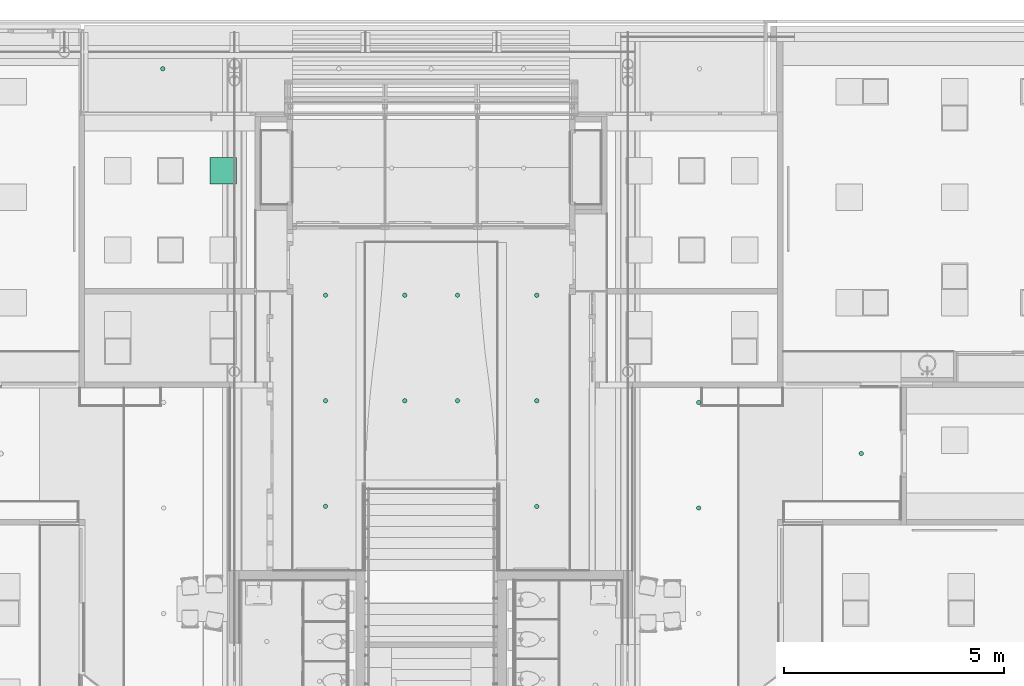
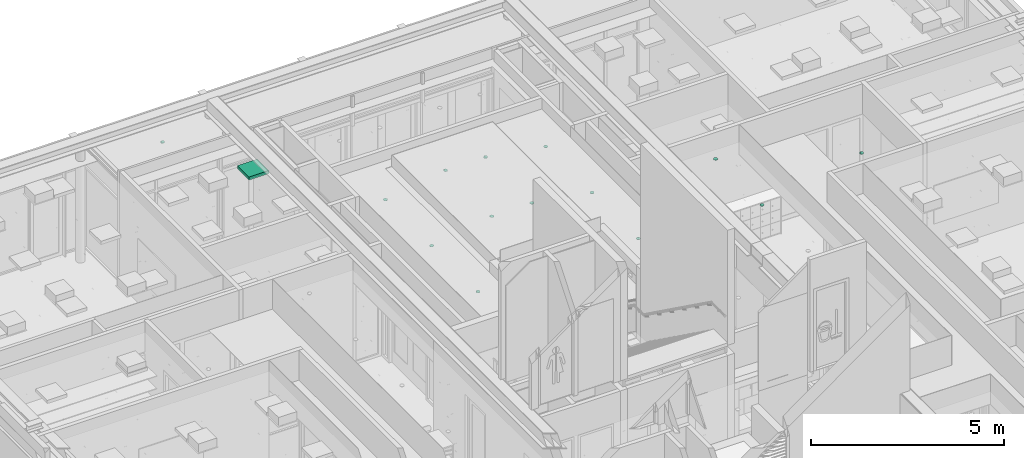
# One storey, part 285 of 347: 15 flow terminals.
"""IFC2X3 building model written with IfcOpenShell, lengths in millimetres."""

from ifc_helpers import new_model, entity, si_unit, converted_unit, derived_unit, money_unit, direction, frame, origin_with_axes, place, context, subcontext, project, spatial, open_shell, faceted_brep, surface_model, source, transform, mapped, type_object, type_shapes, element, save


model = new_model("IFC2X3")

# Units and contexts
model_context = context("Model", 3, precision=0.01, world=origin_with_axes(), true_north=direction((0.0, 1.0)))
plan_context = context("Plan", 3, precision=0.01, world=origin_with_axes(), true_north=direction((0.0, 1.0)))
body_context = subcontext(model_context, "Body", "Model", "MODEL_VIEW")
ifc_project = project(units=[si_unit("LENGTHUNIT", "METRE", prefix="MILLI"), si_unit("AREAUNIT", "SQUARE_METRE"), si_unit("VOLUMEUNIT", "CUBIC_METRE"), converted_unit("PLANEANGLEUNIT", "DEGREE", entity("IfcPlaneAngleMeasure", 0.0174532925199), si_unit("PLANEANGLEUNIT", "RADIAN"), dimensions=[0, 0, 0, 0, 0, 0, 0]), money_unit("EUR"), converted_unit("TIMEUNIT", "Year", entity("IfcTimeMeasure", 31556926.0), si_unit("TIMEUNIT", "SECOND"), dimensions=[0, 0, 1, 0, 0, 0, 0]), si_unit("MASSUNIT", "GRAM", prefix="KILO"), si_unit("THERMODYNAMICTEMPERATUREUNIT", "DEGREE_CELSIUS"), si_unit("LUMINOUSINTENSITYUNIT", "LUMEN"), si_unit("ENERGYUNIT", "JOULE", prefix="MEGA"), derived_unit("THERMALCONDUCTANCEUNIT", [(si_unit("POWERUNIT", "WATT"), 1), (si_unit("LENGTHUNIT", "METRE"), -1), (si_unit("THERMODYNAMICTEMPERATUREUNIT", "KELVIN"), -1)]), derived_unit("SPECIFICHEATCAPACITYUNIT", [(si_unit("ENERGYUNIT", "JOULE"), 1), (si_unit("MASSUNIT", "GRAM", prefix="KILO"), -1), (si_unit("THERMODYNAMICTEMPERATUREUNIT", "KELVIN"), -1)]), derived_unit("MASSDENSITYUNIT", [(si_unit("MASSUNIT", "GRAM", prefix="KILO"), 1), (si_unit("VOLUMEUNIT", "CUBIC_METRE"), -1)])], contexts=[model_context, plan_context])

# Site, building, storey
site_placement = place(None, origin_with_axes())
site = spatial("IfcSite", under=ifc_project, at=site_placement, Name="Site", CompositionType="ELEMENT")
building_placement = place(site_placement, origin_with_axes())
building = spatial("IfcBuilding", under=site, at=building_placement, Name="Naam gebouw", CompositionType="ELEMENT")
storey_placement = place(building_placement, origin_with_axes())
storey = spatial("IfcBuildingStorey", under=building, at=storey_placement, Name="begane grond", CompositionType="ELEMENT", Elevation=0.0)

# Flow terminals
lamp_type_1 = type_object("IfcLampType", Name="Spot plafond 01 25", PredefinedType="NOTDEFINED")
shared_shape_1 = source(origin_with_axes(), body_context, "Body", "SurfaceModel", [
    faceted_brep([(50.0, 0.0, -10.0), (46.1939766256, 19.1341716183, -10.0), (46.1939766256, 19.1341716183, 0.0), (50.0, 0.0, 0.0), (46.1939766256, -19.1341716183, -10.0), (35.3553390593, -35.3553390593, -10.0), (19.1341716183, -46.1939766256, -10.0), (0.0, -50.0, -10.0), (-19.1341716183, -46.1939766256, -10.0), (-35.3553390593, -35.3553390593, -10.0), (-46.1939766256, -19.1341716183, -10.0), (-50.0, 0.0, -10.0), (-46.1939766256, 19.1341716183, -10.0), (-35.3553390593, 35.3553390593, -10.0), (-19.1341716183, 46.1939766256, -10.0), (0.0, 50.0, -10.0), (19.1341716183, 46.1939766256, -10.0), (35.3553390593, 35.3553390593, -10.0), (40.0, 0.0, -10.0), (36.9551813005, 15.3073372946, -10.0), (28.2842712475, 28.2842712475, -10.0), (15.3073372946, 36.9551813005, -10.0), (0.0, 40.0, -10.0), (-15.3073372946, 36.9551813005, -10.0), (-28.2842712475, 28.2842712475, -10.0), (-36.9551813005, 15.3073372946, -10.0), (-40.0, 0.0, -10.0), (-36.9551813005, -15.3073372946, -10.0), (-28.2842712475, -28.2842712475, -10.0), (-15.3073372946, -36.9551813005, -10.0), (0.0, -40.0, -10.0), (15.3073372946, -36.9551813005, -10.0), (28.2842712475, -28.2842712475, -10.0), (36.9551813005, -15.3073372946, -10.0), (35.3553390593, 35.3553390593, 0.0), (19.1341716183, 46.1939766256, 0.0), (0.0, 50.0, 0.0), (-19.1341716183, 46.1939766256, 0.0), (-35.3553390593, 35.3553390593, 0.0), (-46.1939766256, 19.1341716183, 0.0), (-50.0, 0.0, 0.0), (-46.1939766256, -19.1341716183, 0.0), (-35.3553390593, -35.3553390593, 0.0), (-19.1341716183, -46.1939766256, 0.0), (0.0, -50.0, 0.0), (19.1341716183, -46.1939766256, 0.0), (35.3553390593, -35.3553390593, 0.0), (46.1939766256, -19.1341716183, 0.0), (40.0, 0.0, 0.0), (36.9551813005, -15.3073372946, 0.0), (28.2842712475, -28.2842712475, 0.0), (15.3073372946, -36.9551813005, 0.0), (0.0, -40.0, 0.0), (-15.3073372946, -36.9551813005, 0.0), (-28.2842712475, -28.2842712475, 0.0), (-36.9551813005, -15.3073372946, 0.0), (-40.0, 0.0, 0.0), (-36.9551813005, 15.3073372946, 0.0), (-28.2842712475, 28.2842712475, 0.0), (-15.3073372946, 36.9551813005, 0.0), (0.0, 40.0, 0.0), (15.3073372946, 36.9551813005, 0.0), (28.2842712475, 28.2842712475, 0.0), (36.9551813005, 15.3073372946, 0.0)], [[[0, 1, 2, 3]], [[0, 4, 5, 6, 7, 8, 9, 10, 11, 12, 13, 14, 15, 16, 17, 1], [18, 19, 20, 21, 22, 23, 24, 25, 26, 27, 28, 29, 30, 31, 32, 33]], [[1, 17, 34, 2]], [[3, 2, 34, 35, 36, 37, 38, 39, 40, 41, 42, 43, 44, 45, 46, 47], [48, 49, 50, 51, 52, 53, 54, 55, 56, 57, 58, 59, 60, 61, 62, 63]], [[4, 0, 3, 47]], [[5, 4, 47, 46]], [[6, 5, 46, 45]], [[7, 6, 45, 44]], [[8, 7, 44, 43]], [[9, 8, 43, 42]], [[10, 9, 42, 41]], [[11, 10, 41, 40]], [[12, 11, 40, 39]], [[13, 12, 39, 38]], [[14, 13, 38, 37]], [[15, 14, 37, 36]], [[16, 15, 36, 35]], [[17, 16, 35, 34]], [[19, 18, 48, 63]], [[20, 19, 63, 62]], [[21, 20, 62, 61]], [[22, 21, 61, 60]], [[23, 22, 60, 59]], [[24, 23, 59, 58]], [[25, 24, 58, 57]], [[26, 25, 57, 56]], [[27, 26, 56, 55]], [[28, 27, 55, 54]], [[29, 28, 54, 53]], [[30, 29, 53, 52]], [[31, 30, 52, 51]], [[32, 31, 51, 50]], [[33, 32, 50, 49]], [[18, 33, 49, 48]]]),
    surface_model("IfcShellBasedSurfaceModel", [(40.0, 0.0, -8.9), (36.9551813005, -15.3073372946, -8.9), (28.2842712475, -28.2842712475, -8.9), (15.3073372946, -36.9551813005, -8.9), (0.0, -40.0, -8.9), (-15.3073372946, -36.9551813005, -8.9), (-28.2842712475, -28.2842712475, -8.9), (-36.9551813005, -15.3073372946, -8.9), (-40.0, 0.0, -8.9), (-36.9551813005, 15.3073372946, -8.9), (-28.2842712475, 28.2842712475, -8.9), (-15.3073372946, 36.9551813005, -8.9), (0.0, 40.0, -8.9), (15.3073372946, 36.9551813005, -8.9), (28.2842712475, 28.2842712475, -8.9), (36.9551813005, 15.3073372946, -8.9)], [open_shell([[[0, 1, 2, 3, 4, 5, 6, 7, 8, 9, 10, 11, 12, 13, 14, 15]]])]),
])
type_shapes(lamp_type_1, [shared_shape_1])
for number, where, z_axis, x_axis, name in (
    (1, (46155.0, 36224.9999638, 3000.0), (0.0, 0.0, 1.0), (1.0, 0.0, 0.0), "63_Lamp-x"),
    (2, (46155.0, 38624.9999638, 3000.0), (0.0, 0.0, 1.0), (1.0, 0.0, 0.0), "63_Lamp-x"),
    (3, (49850.0, 37462.5, 2600.0), (0.0, 0.0, 1.0), (1.0, 0.0, 0.0), "63_Lamp-x"),
    (4, (39475.08771, 38662.4999592, 3500.0), (0.0, 0.0, 1.0), (1.0, 0.0, 0.0), "63_Lamp-x"),
    (5, (40675.08771, 38662.4999592, 3500.0), (0.0, 0.0, 1.0), (1.0, 0.0, 0.0), "63_Lamp-x"),
    (6, (39475.08771, 41062.4999592, 3500.0), (0.0, 0.0, 1.0), (1.0, 0.0, 0.0), "63_Lamp-x"),
    (7, (40675.08771, 41062.4999592, 3500.0), (0.0, 0.0, 1.0), (1.0, 0.0, 0.0), "63_Lamp-x"),
    (8, (42475.08771, 38662.4999592, 3200.0), (0.0, 0.0, 1.0), (1.0, 0.0, 0.0), "63_Lamp-x"),
    (9, (42475.08771, 41062.4999592, 3200.0), (0.0, 0.0, 1.0), (1.0, 0.0, 0.0), "63_Lamp-x"),
    (10, (42475.08771, 36262.4999592, 3200.0), (0.0, 0.0, 1.0), (1.0, 0.0, 0.0), "63_Lamp-x"),
    (11, (37675.08771, 38662.4999592, 3200.0), (0.0, 0.0, 1.0), (1.0, 0.0, 0.0), "63_Lamp-x"),
    (12, (37675.08771, 41062.4999592, 3200.0), (0.0, 0.0, 1.0), (1.0, 0.0, 0.0), "63_Lamp-x"),
    (13, (37675.08771, 36262.4999592, 3200.0), (0.0, 0.0, 1.0), (1.0, 0.0, 0.0), "63_Lamp-x"),
    (14, (33975.0, 46208.0, 3200.0), (0.0, 0.0, 1.0), (1.0, 0.0, 0.0), "63_Lamp-x"),
):
    element("IfcFlowTerminal", number, at=place(storey_placement, frame(where, z_axis=z_axis, x_axis=x_axis)), inside=storey, type_object=lamp_type_1, Name=name, ObjectType="Lamp", context=body_context, shape_type="MappedRepresentation", body=[
        mapped(shared_shape_1, transform((0.0, 0.0, 0.0))),
    ])
lamp_type_2 = type_object("IfcLampType", Name="TL plafond 25", PredefinedType="NOTDEFINED")
shared_shape_2 = source(origin_with_axes(), body_context, "Body", "SurfaceModel", [
    faceted_brep([(0.0, 0.0, -100.0), (600.0, 0.0, -100.0), (600.0, 0.0, 0.0), (0.0, 0.0, 0.0), (0.0, 600.0, -100.0), (600.0, 600.0, -100.0), (40.0, 40.0, -100.0), (560.0, 40.0, -100.0), (560.0, 560.0, -100.0), (40.0, 560.0, -100.0), (600.0, 600.0, 0.0), (0.0, 600.0, 0.0), (40.0, 40.0, 0.0), (40.0, 560.0, 0.0), (560.0, 560.0, 0.0), (560.0, 40.0, 0.0)], [[[0, 1, 2, 3]], [[0, 4, 5, 1], [6, 7, 8, 9]], [[1, 5, 10, 2]], [[3, 2, 10, 11], [12, 13, 14, 15]], [[4, 0, 3, 11]], [[5, 4, 11, 10]], [[7, 6, 12, 15]], [[8, 7, 15, 14]], [[9, 8, 14, 13]], [[6, 9, 13, 12]]]),
    faceted_brep([(40.0, 40.0, -16.3333333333), (560.0, 40.0, -16.3333333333), (560.0, 40.0, 0.0), (40.0, 40.0, 0.0), (40.0, 560.0, -16.3333333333), (560.0, 560.0, -16.3333333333), (560.0, 560.0, 0.0), (40.0, 560.0, 0.0)], [[[0, 1, 2, 3]], [[0, 4, 5, 1]], [[1, 5, 6, 2]], [[3, 2, 6, 7]], [[4, 0, 3, 7]], [[5, 4, 7, 6]]]),
    surface_model("IfcShellBasedSurfaceModel", [(559.0, 41.0, -100.0), (40.0, 41.0, -100.0), (40.0, 559.0, -100.0), (559.0, 559.0, -100.0)], [open_shell([[[0, 1, 2, 3]]])]),
    faceted_brep([(40.0, 40.0, -100.0), (560.0, 40.0, -100.0), (560.0, 40.0, -60.0), (40.0, 40.0, -60.0), (40.0, 560.0, -100.0), (560.0, 560.0, -100.0), (41.0, 41.0, -100.0), (559.0, 41.0, -100.0), (559.0, 559.0, -100.0), (41.0, 559.0, -100.0), (560.0, 560.0, -60.0), (40.0, 560.0, -60.0), (41.0, 41.0, -60.0), (41.0, 559.0, -60.0), (559.0, 559.0, -60.0), (559.0, 41.0, -60.0)], [[[0, 1, 2, 3]], [[0, 4, 5, 1], [6, 7, 8, 9]], [[1, 5, 10, 2]], [[3, 2, 10, 11], [12, 13, 14, 15]], [[4, 0, 3, 11]], [[5, 4, 11, 10]], [[7, 6, 12, 15]], [[8, 7, 15, 14]], [[9, 8, 14, 13]], [[6, 9, 13, 12]]]),
    faceted_brep([(40.0, 144.0, -48.3333333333), (40.0, 149.740251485, -47.191526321), (560.0, 149.740251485, -47.191526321), (560.0, 144.0, -48.3333333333), (40.0, 138.259748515, -47.191526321), (40.0, 133.393398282, -43.9399350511), (40.0, 130.141807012, -39.0735848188), (40.0, 129.0, -33.3333333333), (40.0, 130.141807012, -27.5930818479), (40.0, 133.393398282, -22.7267316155), (40.0, 138.259748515, -19.4751403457), (40.0, 144.0, -18.3333333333), (40.0, 149.740251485, -19.4751403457), (40.0, 154.606601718, -22.7267316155), (40.0, 157.858192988, -27.5930818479), (40.0, 159.0, -33.3333333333), (40.0, 157.858192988, -39.0735848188), (40.0, 154.606601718, -43.9399350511), (40.0, 144.0, -46.3333333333), (40.0, 148.974884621, -45.343767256), (40.0, 153.192388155, -42.5257214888), (40.0, 156.010433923, -38.3082179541), (40.0, 157.0, -33.3333333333), (40.0, 156.010433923, -28.3584487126), (40.0, 153.192388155, -24.1409451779), (40.0, 148.974884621, -21.3228994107), (40.0, 144.0, -20.3333333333), (40.0, 139.025115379, -21.3228994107), (40.0, 134.807611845, -24.1409451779), (40.0, 131.989566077, -28.3584487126), (40.0, 131.0, -33.3333333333), (40.0, 131.989566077, -38.3082179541), (40.0, 134.807611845, -42.5257214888), (40.0, 139.025115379, -45.343767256), (560.0, 154.606601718, -43.9399350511), (560.0, 157.858192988, -39.0735848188), (560.0, 159.0, -33.3333333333), (560.0, 157.858192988, -27.5930818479), (560.0, 154.606601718, -22.7267316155), (560.0, 149.740251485, -19.4751403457), (560.0, 144.0, -18.3333333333), (560.0, 138.259748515, -19.4751403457), (560.0, 133.393398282, -22.7267316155), (560.0, 130.141807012, -27.5930818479), (560.0, 129.0, -33.3333333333), (560.0, 130.141807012, -39.0735848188), (560.0, 133.393398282, -43.9399350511), (560.0, 138.259748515, -47.191526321), (560.0, 144.0, -46.3333333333), (560.0, 139.025115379, -45.343767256), (560.0, 134.807611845, -42.5257214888), (560.0, 131.989566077, -38.3082179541), (560.0, 131.0, -33.3333333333), (560.0, 131.989566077, -28.3584487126), (560.0, 134.807611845, -24.1409451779), (560.0, 139.025115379, -21.3228994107), (560.0, 144.0, -20.3333333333), (560.0, 148.974884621, -21.3228994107), (560.0, 153.192388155, -24.1409451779), (560.0, 156.010433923, -28.3584487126), (560.0, 157.0, -33.3333333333), (560.0, 156.010433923, -38.3082179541), (560.0, 153.192388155, -42.5257214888), (560.0, 148.974884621, -45.343767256)], [[[0, 1, 2, 3]], [[0, 4, 5, 6, 7, 8, 9, 10, 11, 12, 13, 14, 15, 16, 17, 1], [18, 19, 20, 21, 22, 23, 24, 25, 26, 27, 28, 29, 30, 31, 32, 33]], [[1, 17, 34, 2]], [[3, 2, 34, 35, 36, 37, 38, 39, 40, 41, 42, 43, 44, 45, 46, 47], [48, 49, 50, 51, 52, 53, 54, 55, 56, 57, 58, 59, 60, 61, 62, 63]], [[4, 0, 3, 47]], [[5, 4, 47, 46]], [[6, 5, 46, 45]], [[7, 6, 45, 44]], [[8, 7, 44, 43]], [[9, 8, 43, 42]], [[10, 9, 42, 41]], [[11, 10, 41, 40]], [[12, 11, 40, 39]], [[13, 12, 39, 38]], [[14, 13, 38, 37]], [[15, 14, 37, 36]], [[16, 15, 36, 35]], [[17, 16, 35, 34]], [[19, 18, 48, 63]], [[20, 19, 63, 62]], [[21, 20, 62, 61]], [[22, 21, 61, 60]], [[23, 22, 60, 59]], [[24, 23, 59, 58]], [[25, 24, 58, 57]], [[26, 25, 57, 56]], [[27, 26, 56, 55]], [[28, 27, 55, 54]], [[29, 28, 54, 53]], [[30, 29, 53, 52]], [[31, 30, 52, 51]], [[32, 31, 51, 50]], [[33, 32, 50, 49]], [[18, 33, 49, 48]]]),
    faceted_brep([(40.0, 248.0, -48.3333333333), (40.0, 253.740251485, -47.191526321), (560.0, 253.740251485, -47.191526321), (560.0, 248.0, -48.3333333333), (40.0, 242.259748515, -47.191526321), (40.0, 237.393398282, -43.9399350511), (40.0, 234.141807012, -39.0735848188), (40.0, 233.0, -33.3333333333), (40.0, 234.141807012, -27.5930818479), (40.0, 237.393398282, -22.7267316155), (40.0, 242.259748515, -19.4751403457), (40.0, 248.0, -18.3333333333), (40.0, 253.740251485, -19.4751403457), (40.0, 258.606601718, -22.7267316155), (40.0, 261.858192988, -27.5930818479), (40.0, 263.0, -33.3333333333), (40.0, 261.858192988, -39.0735848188), (40.0, 258.606601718, -43.9399350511), (40.0, 248.0, -46.3333333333), (40.0, 252.974884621, -45.343767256), (40.0, 257.192388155, -42.5257214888), (40.0, 260.010433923, -38.3082179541), (40.0, 261.0, -33.3333333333), (40.0, 260.010433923, -28.3584487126), (40.0, 257.192388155, -24.1409451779), (40.0, 252.974884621, -21.3228994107), (40.0, 248.0, -20.3333333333), (40.0, 243.025115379, -21.3228994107), (40.0, 238.807611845, -24.1409451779), (40.0, 235.989566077, -28.3584487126), (40.0, 235.0, -33.3333333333), (40.0, 235.989566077, -38.3082179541), (40.0, 238.807611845, -42.5257214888), (40.0, 243.025115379, -45.343767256), (560.0, 258.606601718, -43.9399350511), (560.0, 261.858192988, -39.0735848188), (560.0, 263.0, -33.3333333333), (560.0, 261.858192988, -27.5930818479), (560.0, 258.606601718, -22.7267316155), (560.0, 253.740251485, -19.4751403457), (560.0, 248.0, -18.3333333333), (560.0, 242.259748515, -19.4751403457), (560.0, 237.393398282, -22.7267316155), (560.0, 234.141807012, -27.5930818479), (560.0, 233.0, -33.3333333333), (560.0, 234.141807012, -39.0735848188), (560.0, 237.393398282, -43.9399350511), (560.0, 242.259748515, -47.191526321), (560.0, 248.0, -46.3333333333), (560.0, 243.025115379, -45.343767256), (560.0, 238.807611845, -42.5257214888), (560.0, 235.989566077, -38.3082179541), (560.0, 235.0, -33.3333333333), (560.0, 235.989566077, -28.3584487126), (560.0, 238.807611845, -24.1409451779), (560.0, 243.025115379, -21.3228994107), (560.0, 248.0, -20.3333333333), (560.0, 252.974884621, -21.3228994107), (560.0, 257.192388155, -24.1409451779), (560.0, 260.010433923, -28.3584487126), (560.0, 261.0, -33.3333333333), (560.0, 260.010433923, -38.3082179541), (560.0, 257.192388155, -42.5257214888), (560.0, 252.974884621, -45.343767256)], [[[0, 1, 2, 3]], [[0, 4, 5, 6, 7, 8, 9, 10, 11, 12, 13, 14, 15, 16, 17, 1], [18, 19, 20, 21, 22, 23, 24, 25, 26, 27, 28, 29, 30, 31, 32, 33]], [[1, 17, 34, 2]], [[3, 2, 34, 35, 36, 37, 38, 39, 40, 41, 42, 43, 44, 45, 46, 47], [48, 49, 50, 51, 52, 53, 54, 55, 56, 57, 58, 59, 60, 61, 62, 63]], [[4, 0, 3, 47]], [[5, 4, 47, 46]], [[6, 5, 46, 45]], [[7, 6, 45, 44]], [[8, 7, 44, 43]], [[9, 8, 43, 42]], [[10, 9, 42, 41]], [[11, 10, 41, 40]], [[12, 11, 40, 39]], [[13, 12, 39, 38]], [[14, 13, 38, 37]], [[15, 14, 37, 36]], [[16, 15, 36, 35]], [[17, 16, 35, 34]], [[19, 18, 48, 63]], [[20, 19, 63, 62]], [[21, 20, 62, 61]], [[22, 21, 61, 60]], [[23, 22, 60, 59]], [[24, 23, 59, 58]], [[25, 24, 58, 57]], [[26, 25, 57, 56]], [[27, 26, 56, 55]], [[28, 27, 55, 54]], [[29, 28, 54, 53]], [[30, 29, 53, 52]], [[31, 30, 52, 51]], [[32, 31, 51, 50]], [[33, 32, 50, 49]], [[18, 33, 49, 48]]]),
    faceted_brep([(40.0, 352.0, -48.3333333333), (40.0, 357.740251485, -47.191526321), (560.0, 357.740251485, -47.191526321), (560.0, 352.0, -48.3333333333), (40.0, 346.259748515, -47.191526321), (40.0, 341.393398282, -43.9399350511), (40.0, 338.141807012, -39.0735848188), (40.0, 337.0, -33.3333333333), (40.0, 338.141807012, -27.5930818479), (40.0, 341.393398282, -22.7267316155), (40.0, 346.259748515, -19.4751403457), (40.0, 352.0, -18.3333333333), (40.0, 357.740251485, -19.4751403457), (40.0, 362.606601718, -22.7267316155), (40.0, 365.858192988, -27.5930818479), (40.0, 367.0, -33.3333333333), (40.0, 365.858192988, -39.0735848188), (40.0, 362.606601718, -43.9399350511), (40.0, 352.0, -46.3333333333), (40.0, 356.974884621, -45.343767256), (40.0, 361.192388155, -42.5257214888), (40.0, 364.010433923, -38.3082179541), (40.0, 365.0, -33.3333333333), (40.0, 364.010433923, -28.3584487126), (40.0, 361.192388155, -24.1409451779), (40.0, 356.974884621, -21.3228994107), (40.0, 352.0, -20.3333333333), (40.0, 347.025115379, -21.3228994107), (40.0, 342.807611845, -24.1409451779), (40.0, 339.989566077, -28.3584487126), (40.0, 339.0, -33.3333333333), (40.0, 339.989566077, -38.3082179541), (40.0, 342.807611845, -42.5257214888), (40.0, 347.025115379, -45.343767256), (560.0, 362.606601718, -43.9399350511), (560.0, 365.858192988, -39.0735848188), (560.0, 367.0, -33.3333333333), (560.0, 365.858192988, -27.5930818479), (560.0, 362.606601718, -22.7267316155), (560.0, 357.740251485, -19.4751403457), (560.0, 352.0, -18.3333333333), (560.0, 346.259748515, -19.4751403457), (560.0, 341.393398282, -22.7267316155), (560.0, 338.141807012, -27.5930818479), (560.0, 337.0, -33.3333333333), (560.0, 338.141807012, -39.0735848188), (560.0, 341.393398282, -43.9399350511), (560.0, 346.259748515, -47.191526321), (560.0, 352.0, -46.3333333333), (560.0, 347.025115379, -45.343767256), (560.0, 342.807611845, -42.5257214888), (560.0, 339.989566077, -38.3082179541), (560.0, 339.0, -33.3333333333), (560.0, 339.989566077, -28.3584487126), (560.0, 342.807611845, -24.1409451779), (560.0, 347.025115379, -21.3228994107), (560.0, 352.0, -20.3333333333), (560.0, 356.974884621, -21.3228994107), (560.0, 361.192388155, -24.1409451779), (560.0, 364.010433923, -28.3584487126), (560.0, 365.0, -33.3333333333), (560.0, 364.010433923, -38.3082179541), (560.0, 361.192388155, -42.5257214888), (560.0, 356.974884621, -45.343767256)], [[[0, 1, 2, 3]], [[0, 4, 5, 6, 7, 8, 9, 10, 11, 12, 13, 14, 15, 16, 17, 1], [18, 19, 20, 21, 22, 23, 24, 25, 26, 27, 28, 29, 30, 31, 32, 33]], [[1, 17, 34, 2]], [[3, 2, 34, 35, 36, 37, 38, 39, 40, 41, 42, 43, 44, 45, 46, 47], [48, 49, 50, 51, 52, 53, 54, 55, 56, 57, 58, 59, 60, 61, 62, 63]], [[4, 0, 3, 47]], [[5, 4, 47, 46]], [[6, 5, 46, 45]], [[7, 6, 45, 44]], [[8, 7, 44, 43]], [[9, 8, 43, 42]], [[10, 9, 42, 41]], [[11, 10, 41, 40]], [[12, 11, 40, 39]], [[13, 12, 39, 38]], [[14, 13, 38, 37]], [[15, 14, 37, 36]], [[16, 15, 36, 35]], [[17, 16, 35, 34]], [[19, 18, 48, 63]], [[20, 19, 63, 62]], [[21, 20, 62, 61]], [[22, 21, 61, 60]], [[23, 22, 60, 59]], [[24, 23, 59, 58]], [[25, 24, 58, 57]], [[26, 25, 57, 56]], [[27, 26, 56, 55]], [[28, 27, 55, 54]], [[29, 28, 54, 53]], [[30, 29, 53, 52]], [[31, 30, 52, 51]], [[32, 31, 51, 50]], [[33, 32, 50, 49]], [[18, 33, 49, 48]]]),
    faceted_brep([(40.0, 456.0, -48.3333333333), (40.0, 461.740251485, -47.191526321), (560.0, 461.740251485, -47.191526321), (560.0, 456.0, -48.3333333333), (40.0, 450.259748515, -47.191526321), (40.0, 445.393398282, -43.9399350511), (40.0, 442.141807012, -39.0735848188), (40.0, 441.0, -33.3333333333), (40.0, 442.141807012, -27.5930818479), (40.0, 445.393398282, -22.7267316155), (40.0, 450.259748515, -19.4751403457), (40.0, 456.0, -18.3333333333), (40.0, 461.740251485, -19.4751403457), (40.0, 466.606601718, -22.7267316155), (40.0, 469.858192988, -27.5930818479), (40.0, 471.0, -33.3333333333), (40.0, 469.858192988, -39.0735848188), (40.0, 466.606601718, -43.9399350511), (40.0, 456.0, -46.3333333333), (40.0, 460.974884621, -45.343767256), (40.0, 465.192388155, -42.5257214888), (40.0, 468.010433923, -38.3082179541), (40.0, 469.0, -33.3333333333), (40.0, 468.010433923, -28.3584487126), (40.0, 465.192388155, -24.1409451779), (40.0, 460.974884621, -21.3228994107), (40.0, 456.0, -20.3333333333), (40.0, 451.025115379, -21.3228994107), (40.0, 446.807611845, -24.1409451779), (40.0, 443.989566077, -28.3584487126), (40.0, 443.0, -33.3333333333), (40.0, 443.989566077, -38.3082179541), (40.0, 446.807611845, -42.5257214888), (40.0, 451.025115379, -45.343767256), (560.0, 466.606601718, -43.9399350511), (560.0, 469.858192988, -39.0735848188), (560.0, 471.0, -33.3333333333), (560.0, 469.858192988, -27.5930818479), (560.0, 466.606601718, -22.7267316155), (560.0, 461.740251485, -19.4751403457), (560.0, 456.0, -18.3333333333), (560.0, 450.259748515, -19.4751403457), (560.0, 445.393398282, -22.7267316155), (560.0, 442.141807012, -27.5930818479), (560.0, 441.0, -33.3333333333), (560.0, 442.141807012, -39.0735848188), (560.0, 445.393398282, -43.9399350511), (560.0, 450.259748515, -47.191526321), (560.0, 456.0, -46.3333333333), (560.0, 451.025115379, -45.343767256), (560.0, 446.807611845, -42.5257214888), (560.0, 443.989566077, -38.3082179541), (560.0, 443.0, -33.3333333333), (560.0, 443.989566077, -28.3584487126), (560.0, 446.807611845, -24.1409451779), (560.0, 451.025115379, -21.3228994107), (560.0, 456.0, -20.3333333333), (560.0, 460.974884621, -21.3228994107), (560.0, 465.192388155, -24.1409451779), (560.0, 468.010433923, -28.3584487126), (560.0, 469.0, -33.3333333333), (560.0, 468.010433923, -38.3082179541), (560.0, 465.192388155, -42.5257214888), (560.0, 460.974884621, -45.343767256)], [[[0, 1, 2, 3]], [[0, 4, 5, 6, 7, 8, 9, 10, 11, 12, 13, 14, 15, 16, 17, 1], [18, 19, 20, 21, 22, 23, 24, 25, 26, 27, 28, 29, 30, 31, 32, 33]], [[1, 17, 34, 2]], [[3, 2, 34, 35, 36, 37, 38, 39, 40, 41, 42, 43, 44, 45, 46, 47], [48, 49, 50, 51, 52, 53, 54, 55, 56, 57, 58, 59, 60, 61, 62, 63]], [[4, 0, 3, 47]], [[5, 4, 47, 46]], [[6, 5, 46, 45]], [[7, 6, 45, 44]], [[8, 7, 44, 43]], [[9, 8, 43, 42]], [[10, 9, 42, 41]], [[11, 10, 41, 40]], [[12, 11, 40, 39]], [[13, 12, 39, 38]], [[14, 13, 38, 37]], [[15, 14, 37, 36]], [[16, 15, 36, 35]], [[17, 16, 35, 34]], [[19, 18, 48, 63]], [[20, 19, 63, 62]], [[21, 20, 62, 61]], [[22, 21, 61, 60]], [[23, 22, 60, 59]], [[24, 23, 59, 58]], [[25, 24, 58, 57]], [[26, 25, 57, 56]], [[27, 26, 56, 55]], [[28, 27, 55, 54]], [[29, 28, 54, 53]], [[30, 29, 53, 52]], [[31, 30, 52, 51]], [[32, 31, 51, 50]], [[33, 32, 50, 49]], [[18, 33, 49, 48]]]),
])
type_shapes(lamp_type_2, [shared_shape_2])
flow_terminal_placement = place(storey_placement, frame((35050.0, 43590.5, 3295.0), z_axis=(0.0, 0.0, 1.0), x_axis=(1.0, 0.0, 0.0)))
element("IfcFlowTerminal", 15, at=flow_terminal_placement, inside=storey, type_object=lamp_type_2, Name="63_Lamp-x", ObjectType="Lamp", context=body_context, shape_type="MappedRepresentation", body=[
    mapped(shared_shape_2, transform((0.0, 0.0, 0.0))),
])

save(model, "model.ifc")
